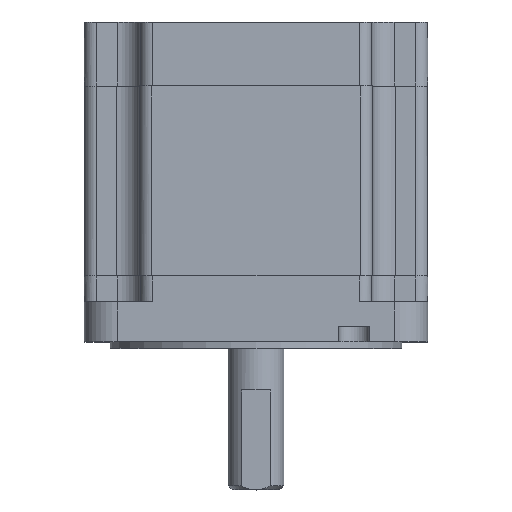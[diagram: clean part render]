
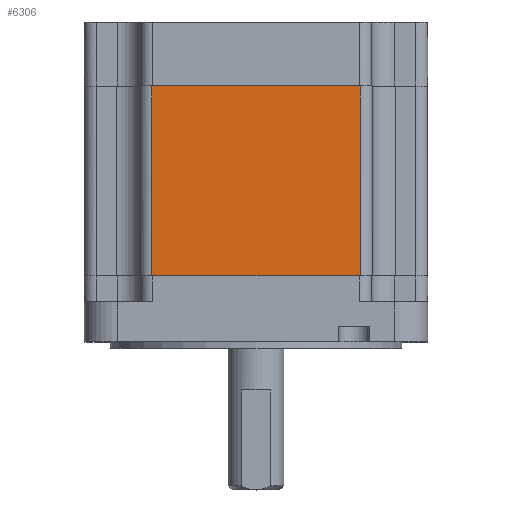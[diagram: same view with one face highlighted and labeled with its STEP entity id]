
A CAD part, top view. The second image highlights one B-rep face of the part: STEP entity #6306.
In plain terms, the highlighted planar face has unit normal (0, 0, 1).
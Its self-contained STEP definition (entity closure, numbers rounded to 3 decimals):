
#2776=CARTESIAN_POINT('',(-26.1,-17.425,42.93));
#2777=VERTEX_POINT('',#2776);
#2785=CARTESIAN_POINT('',(26.1,-17.425,42.93));
#2786=VERTEX_POINT('',#2785);
#2787=CARTESIAN_POINT('',(-26.1,-17.425,42.93));
#2788=DIRECTION('',(1.,0.,0.));
#2789=VECTOR('',#2788,52.2);
#2790=LINE('',#2787,#2789);
#2791=EDGE_CURVE('',#2777,#2786,#2790,.T.);
#6255=CARTESIAN_POINT('',(26.1,-64.925,42.93));
#6256=VERTEX_POINT('',#6255);
#6257=CARTESIAN_POINT('',(26.1,-17.425,42.93));
#6258=DIRECTION('',(0.,-1.,0.));
#6259=VECTOR('',#6258,47.5);
#6260=LINE('',#6257,#6259);
#6261=EDGE_CURVE('',#2786,#6256,#6260,.T.);
#6283=CARTESIAN_POINT('',(0.,-23.175,42.93));
#6284=DIRECTION('',(-1.,0.,0.));
#6285=DIRECTION('',(0.,0.,1.));
#6286=AXIS2_PLACEMENT_3D('',#6283,#6285,#6284);
#6287=PLANE('',#6286);
#6288=ORIENTED_EDGE('',*,*,#2791,.F.);
#6289=CARTESIAN_POINT('',(-26.1,-64.925,42.93));
#6290=VERTEX_POINT('',#6289);
#6291=CARTESIAN_POINT('',(-26.1,-17.425,42.93));
#6292=DIRECTION('',(0.,-1.,0.));
#6293=VECTOR('',#6292,47.5);
#6294=LINE('',#6291,#6293);
#6295=EDGE_CURVE('',#2777,#6290,#6294,.T.);
#6296=ORIENTED_EDGE('E525',*,*,#6295,.T.);
#6297=CARTESIAN_POINT('',(-26.1,-64.925,42.93));
#6298=DIRECTION('',(1.,0.,0.));
#6299=VECTOR('',#6298,52.2);
#6300=LINE('',#6297,#6299);
#6301=EDGE_CURVE('',#6290,#6256,#6300,.T.);
#6302=ORIENTED_EDGE('E526',*,*,#6301,.T.);
#6303=ORIENTED_EDGE('E526',*,*,#6261,.F.);
#6304=EDGE_LOOP('',(#6288,#6296,#6302,#6303));
#6305=FACE_OUTER_BOUND('',#6304,.T.);
#6306=ADVANCED_FACE('F209',(#6305),#6287,.T.);
